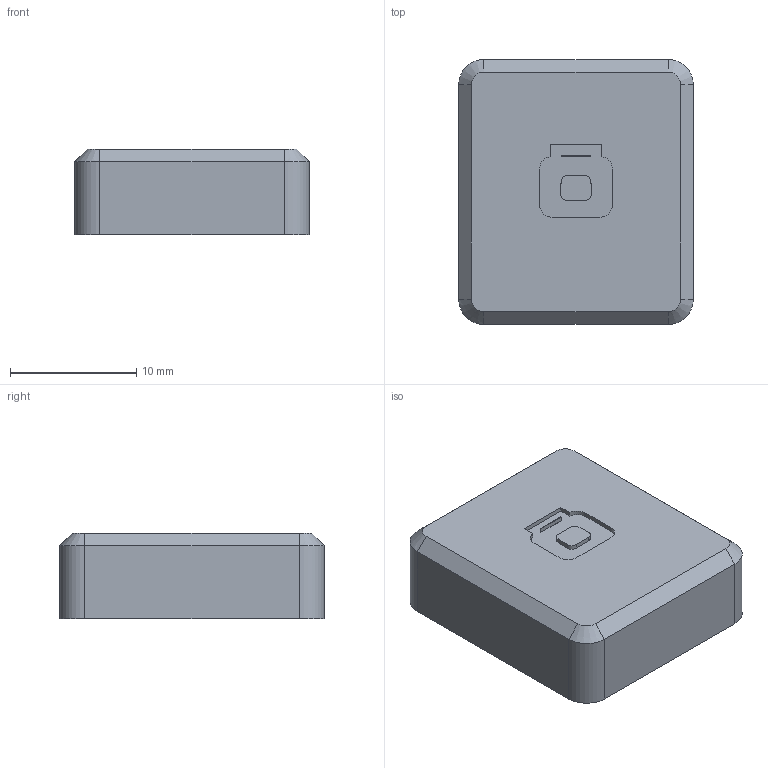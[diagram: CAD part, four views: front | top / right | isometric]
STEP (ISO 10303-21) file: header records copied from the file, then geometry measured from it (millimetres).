
FILE_DESCRIPTION(('Open CASCADE Model'),'2;1');
FILE_NAME('Open CASCADE Shape Model','2026-09-17T20:02:03',('Author'),( 'Open CASCADE'),'Open CASCADE STEP processor 7.7','Open CASCADE 7.7' ,'Unknown');
FILE_SCHEMA(('AUTOMOTIVE_DESIGN { 1 0 10303 214 1 1 1 1 }'));
Length unit declared in the file: millimetre
Products named in the file (1): Open CASCADE STEP translator 7.7 3
Bounding box: 18.6 x 21 x 6.8 mm (x, y, z)
Volume: 1091.5 mm3; surface area: 1804.3 mm2
Topology: 1 solids, 1 shells, 74 faces, 193 edges, 126 vertices
Faces by surface type: plane 53, cylinder 17, cone 4
Full cylindrical faces by diameter (mm): 7.2 x1
Entity records: 4648 total; most frequent: CARTESIAN_POINT 938, DIRECTION 629, ORIENTED_EDGE 386, PCURVE 386, DEFINITIONAL_REPRESENTATION 386, LINE 373, VECTOR 373, EDGE_CURVE 193
